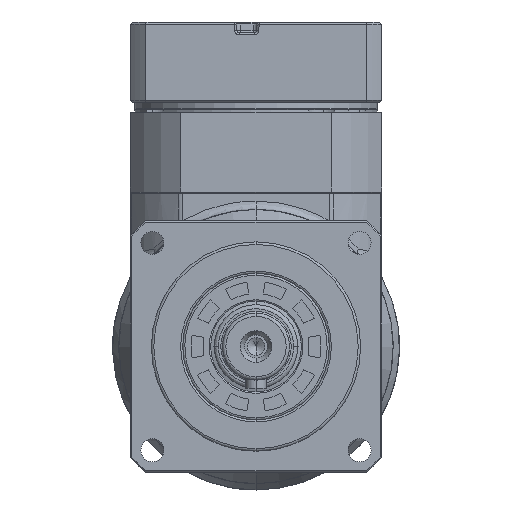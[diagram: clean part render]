
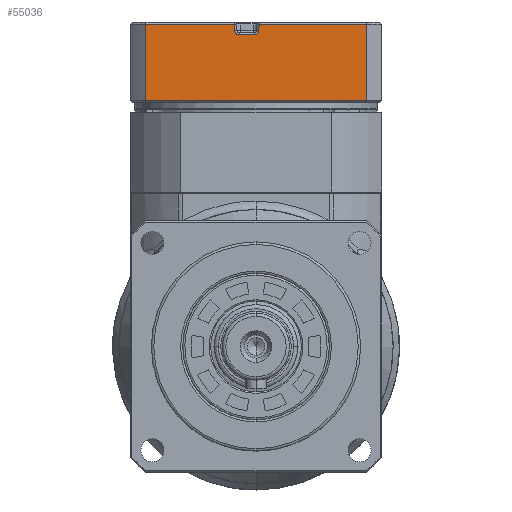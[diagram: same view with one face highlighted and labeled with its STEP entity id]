
A CAD part, left-side view. The second image highlights one B-rep face of the part: STEP entity #55036.
In plain terms, the highlighted planar face has unit normal (-1, 0, 0) as drawn and (0, 1, 0) by its records, which use the part's own axes.
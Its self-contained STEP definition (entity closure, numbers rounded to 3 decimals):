
#1171 = VERTEX_POINT ( 'NONE', #5533 ) ;
#3114 = ORIENTED_EDGE ( 'NONE', *, *, #38599, .T. ) ;
#4441 = VECTOR ( 'NONE', #25748, 1000. ) ;
#5240 = CARTESIAN_POINT ( 'NONE',  ( 22.93, 30., 0.657 ) ) ;
#5533 = CARTESIAN_POINT ( 'NONE',  ( 22., 30., -4.058 ) ) ;
#5952 = VERTEX_POINT ( 'NONE', #65451 ) ;
#7023 = FACE_OUTER_BOUND ( 'NONE', #8565, .T. ) ;
#8565 = EDGE_LOOP ( 'NONE', ( #18139, #66710, #36278, #3114, #46158, #43932, #58080, #32365, #62951, #70614 ) ) ;
#8804 = VERTEX_POINT ( 'NONE', #23740 ) ;
#10239 = CARTESIAN_POINT ( 'NONE',  ( 24.5, 30., 0.767 ) ) ;
#10418 = EDGE_CURVE ( 'NONE', #33795, #26702, #68086, .T. ) ;
#10690 = DIRECTION ( 'NONE',  ( -0.998, 0., -0.07 ) ) ;
#11554 = EDGE_CURVE ( 'NONE', #1171, #21875, #26883, .T. ) ;
#11773 = CARTESIAN_POINT ( 'NONE',  ( 24.5, 30., -26.458 ) ) ;
#11979 = VECTOR ( 'NONE', #52175, 1000. ) ;
#12514 = EDGE_CURVE ( 'NONE', #33795, #27729, #24084, .T. ) ;
#12687 = VECTOR ( 'NONE', #64610, 1000. ) ;
#14049 = DIRECTION ( 'NONE',  ( 0., 0., 1. ) ) ;
#14116 = DIRECTION ( 'NONE',  ( 0., -1., 0. ) ) ;
#14215 = CARTESIAN_POINT ( 'NONE',  ( 23., 30., -4.058 ) ) ;
#14565 = DIRECTION ( 'NONE',  ( 0., 0., -1. ) ) ;
#14699 = AXIS2_PLACEMENT_3D ( 'NONE', #15407, #54093, #20984 ) ;
#14732 = CARTESIAN_POINT ( 'NONE',  ( 22., 30., -26.458 ) ) ;
#15407 = CARTESIAN_POINT ( 'NONE',  ( 23., 30., -0.34 ) ) ;
#15992 = VERTEX_POINT ( 'NONE', #25915 ) ;
#16344 = DIRECTION ( 'NONE',  ( 1., 0., 0. ) ) ;
#16569 = EDGE_CURVE ( 'NONE', #21875, #15992, #56815, .T. ) ;
#18139 = ORIENTED_EDGE ( 'NONE', *, *, #12514, .F. ) ;
#18587 = DIRECTION ( 'NONE',  ( 0., 1., 0. ) ) ;
#19909 = CARTESIAN_POINT ( 'NONE',  ( 6.3, 30., -26.458 ) ) ;
#20778 = LINE ( 'NONE', #36959, #4441 ) ;
#20984 = DIRECTION ( 'NONE',  ( -1., 0., 0. ) ) ;
#21687 = CIRCLE ( 'NONE', #14699, 1. ) ;
#21875 = VERTEX_POINT ( 'NONE', #23938 ) ;
#23706 = EDGE_CURVE ( 'NONE', #8804, #68972, #36825, .T. ) ;
#23740 = CARTESIAN_POINT ( 'NONE',  ( 24.5, 30., 0.767 ) ) ;
#23938 = CARTESIAN_POINT ( 'NONE',  ( 22.93, 30., -5.056 ) ) ;
#24084 = LINE ( 'NONE', #52251, #11979 ) ;
#25748 = DIRECTION ( 'NONE',  ( 0., 0., -1. ) ) ;
#25789 = EDGE_CURVE ( 'NONE', #42249, #1171, #53103, .T. ) ;
#25915 = CARTESIAN_POINT ( 'NONE',  ( 24.5, 30., -5.165 ) ) ;
#26702 = VERTEX_POINT ( 'NONE', #60500 ) ;
#26883 = CIRCLE ( 'NONE', #33864, 1. ) ;
#27729 = VERTEX_POINT ( 'NONE', #11773 ) ;
#29114 = EDGE_CURVE ( 'NONE', #15992, #27729, #54306, .T. ) ;
#32365 = ORIENTED_EDGE ( 'NONE', *, *, #11554, .T. ) ;
#33795 = VERTEX_POINT ( 'NONE', #19909 ) ;
#33864 = AXIS2_PLACEMENT_3D ( 'NONE', #14215, #14116, #14049 ) ;
#35034 = VECTOR ( 'NONE', #10690, 1000. ) ;
#36278 = ORIENTED_EDGE ( 'NONE', *, *, #70146, .T. ) ;
#36825 = LINE ( 'NONE', #10239, #35034 ) ;
#36959 = CARTESIAN_POINT ( 'NONE',  ( 24.5, 30., 0. ) ) ;
#38576 = CARTESIAN_POINT ( 'NONE',  ( 22., 30., -0.34 ) ) ;
#38599 = EDGE_CURVE ( 'NONE', #5952, #8804, #20778, .T. ) ;
#40204 = VECTOR ( 'NONE', #14565, 1000. ) ;
#42249 = VERTEX_POINT ( 'NONE', #38576 ) ;
#43932 = ORIENTED_EDGE ( 'NONE', *, *, #46160, .T. ) ;
#44024 = CARTESIAN_POINT ( 'NONE',  ( -51., 30., 26.458 ) ) ;
#46158 = ORIENTED_EDGE ( 'NONE', *, *, #23706, .T. ) ;
#46160 = EDGE_CURVE ( 'NONE', #68972, #42249, #21687, .T. ) ;
#48393 = CARTESIAN_POINT ( 'NONE',  ( 24.5, 30., 0. ) ) ;
#49239 = DIRECTION ( 'NONE',  ( 0., 0., -1. ) ) ;
#51313 = DIRECTION ( 'NONE',  ( 0., 0., 1. ) ) ;
#51624 = CARTESIAN_POINT ( 'NONE',  ( 6.3, 30., 0. ) ) ;
#51691 = CARTESIAN_POINT ( 'NONE',  ( -51., 30., -26.458 ) ) ;
#52175 = DIRECTION ( 'NONE',  ( 1., 0., 0. ) ) ;
#52251 = CARTESIAN_POINT ( 'NONE',  ( 0., 30., -26.458 ) ) ;
#53103 = LINE ( 'NONE', #14732, #40204 ) ;
#53589 = VECTOR ( 'NONE', #51313, 1000. ) ;
#54093 = DIRECTION ( 'NONE',  ( 0., -1., 0. ) ) ;
#54306 = LINE ( 'NONE', #48393, #68819 ) ;
#55036 = ADVANCED_FACE ( 'NONE', ( #7023 ), #62470, .T. ) ;
#56815 = LINE ( 'NONE', #64388, #12687 ) ;
#57190 = DIRECTION ( 'NONE',  ( 0., 0., 1. ) ) ;
#58080 = ORIENTED_EDGE ( 'NONE', *, *, #25789, .T. ) ;
#60500 = CARTESIAN_POINT ( 'NONE',  ( 6.3, 30., 26.458 ) ) ;
#60694 = LINE ( 'NONE', #44024, #62374 ) ;
#62374 = VECTOR ( 'NONE', #16344, 1000. ) ;
#62470 = PLANE ( 'NONE',  #71181 ) ;
#62951 = ORIENTED_EDGE ( 'NONE', *, *, #16569, .T. ) ;
#64388 = CARTESIAN_POINT ( 'NONE',  ( 22.93, 30., -5.056 ) ) ;
#64610 = DIRECTION ( 'NONE',  ( 0.998, 0., -0.07 ) ) ;
#65451 = CARTESIAN_POINT ( 'NONE',  ( 24.5, 30., 26.458 ) ) ;
#66710 = ORIENTED_EDGE ( 'NONE', *, *, #10418, .T. ) ;
#68086 = LINE ( 'NONE', #51624, #53589 ) ;
#68819 = VECTOR ( 'NONE', #49239, 1000. ) ;
#68972 = VERTEX_POINT ( 'NONE', #5240 ) ;
#70146 = EDGE_CURVE ( 'NONE', #26702, #5952, #60694, .T. ) ;
#70614 = ORIENTED_EDGE ( 'NONE', *, *, #29114, .T. ) ;
#71181 = AXIS2_PLACEMENT_3D ( 'NONE', #51691, #18587, #57190 ) ;
